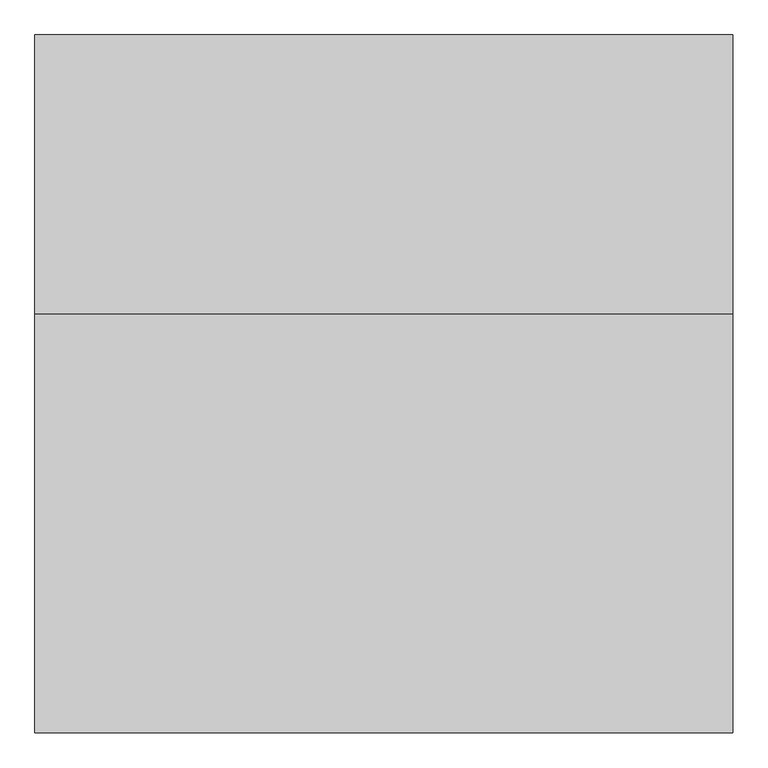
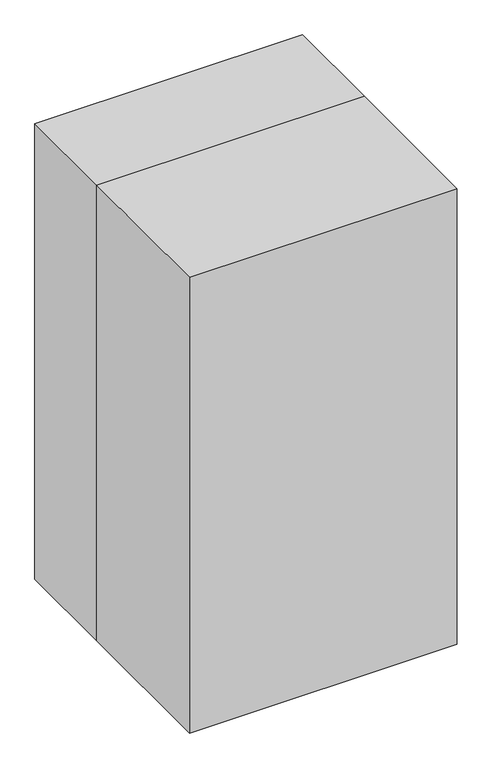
"""IFC4 building model written with IfcOpenShell, lengths in millimetres: proxy geometry, BIMHealth-Clearance_Zone_Sink-LOD2A-v1 : BIMHealth-Clearance_Zone_Sink-LOD2A-v1."""

import ifcopenshell
import ifcopenshell.guid

model = None  # the IFC model being written
_history = None  # IfcOwnerHistory: only IFC2X3 demands one
_inside = {}  # id of a spatial element -> (the spatial element, [elements in it])
_under = {}  # id of a project, library or spatial element -> (it, [spatial elements below it])
_declared = {}  # id of a project -> (the project, [libraries it declares])
_typed = {}  # id of a type object -> (the type object, [elements of that type])
_made_of = {}  # id of a material, layer set ... -> (it, [elements and type objects made of it])


def new_model(schema):
    """Start an empty IFC model of exactly this schema.

    Asked for "IFC4X3", IfcOpenShell would pick the latest addendum, in which some entities
    have other attributes; the version numbers below select the first issue.
    IFC2X3 requires an IfcOwnerHistory on every rooted entity: one is made here for all.
    """
    global model, _history
    if schema == "IFC4X3":
        model = ifcopenshell.file(schema_version=(4, 3, 0, 0))
    else:
        model = ifcopenshell.file(schema=schema)
    _inside.clear()
    _under.clear()
    _declared.clear()
    _typed.clear()
    _made_of.clear()
    _history = None
    if model.schema == "IFC2X3":
        org = make("IfcOrganization", Name="unknown")
        user = make(
            "IfcPersonAndOrganization",
            ThePerson=make("IfcPerson", FamilyName="unknown"),
            TheOrganization=org,
        )
        app = make(
            "IfcApplication",
            ApplicationDeveloper=org,
            Version="unknown",
            ApplicationFullName="unknown",
            ApplicationIdentifier="unknown",
        )
        _history = make(
            "IfcOwnerHistory",
            OwningUser=user,
            OwningApplication=app,
            ChangeAction="ADDED",
            CreationDate=0,
        )
    return model


def make(cls, **values):
    """One entity of the class cls with the attributes given. An attribute that is None is left unset."""
    return model.create_entity(
        cls, **{name: value for name, value in values.items() if value is not None}
    )


def rooted(cls, **values):
    """An entity with a GlobalId (a new one), such as an element, a storey or a relation."""
    return make(cls, GlobalId=ifcopenshell.guid.new(), OwnerHistory=_history, **values)


def si_unit(unit_type, name, prefix=None):
    """IfcSIUnit, for example si_unit("LENGTHUNIT", "METRE", prefix="MILLI")."""
    return make("IfcSIUnit", UnitType=unit_type, Prefix=prefix, Name=name)


def assignment(units):
    """IfcUnitAssignment: the units of a project."""
    return None if units is None else make("IfcUnitAssignment", Units=units)


def point(xyz):
    """IfcCartesianPoint."""
    return None if xyz is None else make("IfcCartesianPoint", Coordinates=xyz)


def direction(xyz):
    """IfcDirection."""
    return None if xyz is None else make("IfcDirection", DirectionRatios=xyz)


def frame(location, z_axis=None, x_axis=None):
    """IfcAxis2Placement3D, a coordinate frame: its origin and axes. An axis left out is left unset."""
    return make(
        "IfcAxis2Placement3D",
        Location=point(location),
        Axis=direction(z_axis),
        RefDirection=direction(x_axis),
    )


def origin():
    """The frame at (0, 0, 0) with its axes left unset."""
    return frame((0.0, 0.0, 0.0))


def origin_with_axes():
    """The frame at (0, 0, 0) with the z axis (0, 0, 1) and the x axis (1, 0, 0) written out."""
    return frame((0.0, 0.0, 0.0), z_axis=(0.0, 0.0, 1.0), x_axis=(1.0, 0.0, 0.0))


def place(relative_to, where):
    """IfcLocalPlacement: puts the frame where relative to a parent placement (None: the world)."""
    return make(
        "IfcLocalPlacement", PlacementRelTo=relative_to, RelativePlacement=where
    )


def context(
    kind, dimensions, precision=None, world=None, true_north=None, identifier=None
):
    """IfcGeometricRepresentationContext, for example the 3D "Model" context."""
    return make(
        "IfcGeometricRepresentationContext",
        ContextIdentifier=identifier,
        ContextType=kind,
        CoordinateSpaceDimension=dimensions,
        Precision=precision,
        WorldCoordinateSystem=world,
        TrueNorth=true_north,
    )


def project(units=None, contexts=None):
    """IfcProject with its units and contexts."""
    return rooted(
        "IfcProject",
        Name="project",
        RepresentationContexts=contexts,
        UnitsInContext=assignment(units),
    )


def spatial(cls, under=None, at=None, **own):
    """A site, building, storey or space (cls), placed at a placement, below another one or the project."""
    s = rooted(cls, ObjectPlacement=at, **own)
    if under is not None:
        _under.setdefault(under.id(), (under, []))[1].append(s)
    return s


def polyline(points):
    """IfcPolyline through the points."""
    return make("IfcPolyline", Points=[point(p) for p in points])


def outline(outer, holes=None, kind="AREA"):
    """IfcArbitraryClosedProfileDef: a profile drawn as a closed curve; with holes, ...WithVoids."""
    if holes is None:
        return make("IfcArbitraryClosedProfileDef", ProfileType=kind, OuterCurve=outer)
    return make(
        "IfcArbitraryProfileDefWithVoids",
        ProfileType=kind,
        OuterCurve=outer,
        InnerCurves=holes,
    )


def extrude(swept, where, along, depth):
    """IfcExtrudedAreaSolid: the profile swept, set in the frame where, extruded along a direction by depth."""
    return make(
        "IfcExtrudedAreaSolid",
        SweptArea=swept,
        Position=where,
        ExtrudedDirection=direction(along),
        Depth=depth,
    )


def shape(context_of_items, identifier, shape_type, items):
    """IfcShapeRepresentation: the items that make up one representation, for example the "Body"."""
    return make(
        "IfcShapeRepresentation",
        ContextOfItems=context_of_items,
        RepresentationIdentifier=identifier,
        RepresentationType=shape_type,
        Items=items,
    )


def source(mapping_origin, context_of_items, identifier, shape_type, items):
    """IfcRepresentationMap: a shape defined once, which mapped items show again and again."""
    return make(
        "IfcRepresentationMap",
        MappingOrigin=mapping_origin,
        MappedRepresentation=shape(context_of_items, identifier, shape_type, items),
    )


def transform(
    local_origin,
    x_axis=None,
    y_axis=None,
    z_axis=None,
    scale=None,
    scale2=None,
    scale3=None,
    uniform=True,
):
    """IfcCartesianTransformationOperator3D, or its non-uniform kind. x_axis, y_axis, z_axis: its Axis1, 2, 3."""
    if uniform:
        return make(
            "IfcCartesianTransformationOperator3D",
            Axis1=direction(x_axis),
            Axis2=direction(y_axis),
            LocalOrigin=point(local_origin),
            Scale=scale,
            Axis3=direction(z_axis),
        )
    return make(
        "IfcCartesianTransformationOperator3DnonUniform",
        Axis1=direction(x_axis),
        Axis2=direction(y_axis),
        LocalOrigin=point(local_origin),
        Scale=scale,
        Axis3=direction(z_axis),
        Scale2=scale2,
        Scale3=scale3,
    )


def mapped(mapping_source, mapping_target):
    """IfcMappedItem: shows the shape of a source again, moved by a transform."""
    return make(
        "IfcMappedItem", MappingSource=mapping_source, MappingTarget=mapping_target
    )


def made_of(thing, what):
    """Note that an element or type object is made of a material, layer set ...; save() writes the relation."""
    if what is not None:
        _made_of.setdefault(what.id(), (what, []))[1].append(thing)
    return thing


def element(
    cls,
    number,
    at=None,
    inside=None,
    cuts=None,
    type_object=None,
    material=None,
    context=None,
    identifier="Body",
    shape_type=None,
    held_by="IfcProductDefinitionShape",
    body=None,
    shapes=None,
    **own,
):
    """One element of the class cls, such as IfcWall. Its Tag is "e" and its number.

    at: its placement. inside: the storey or other place that contains it. cuts: it is an
    opening in that element (IfcRelVoidsElement). A single representation is given by context,
    identifier, shape_type and body (its items); several are given by shapes. held_by: the class
    of the entity that holds the representations. save() writes the other relations.
    """
    e = rooted(cls, Tag="e%d" % number, ObjectPlacement=at, **own)
    if body is not None:
        shapes = [shape(context, identifier, shape_type, body)]
    if shapes is not None:
        e.Representation = make(held_by, Representations=shapes)
    if inside is not None:
        _inside.setdefault(inside.id(), (inside, []))[1].append(e)
    if cuts is not None:
        rooted(
            "IfcRelVoidsElement", RelatingBuildingElement=cuts, RelatedOpeningElement=e
        )
    if type_object is not None:
        _typed.setdefault(type_object.id(), (type_object, []))[1].append(e)
    return made_of(e, material)


def aggregate(whole, parts):
    """IfcRelAggregates: a whole, such as a stair, and the parts it consists of."""
    return rooted("IfcRelAggregates", RelatingObject=whole, RelatedObjects=parts)


def save(model, path):
    """Write the relations noted so far, then the file.

    IfcRelAggregates (storeys below a building ...), IfcRelContainedInSpatialStructure (elements
    in a storey), IfcRelDefinesByType, IfcRelAssociatesMaterial and IfcRelDeclares: one each for
    every whole, place, type object, material and project.
    """
    for whole, parts in _under.values():
        aggregate(whole, parts)
    for where, things in _inside.values():
        rooted(
            "IfcRelContainedInSpatialStructure",
            RelatedElements=things,
            RelatingStructure=where,
        )
    for kind, things in _typed.values():
        rooted("IfcRelDefinesByType", RelatedObjects=things, RelatingType=kind)
    for what, things in _made_of.values():
        rooted("IfcRelAssociatesMaterial", RelatedObjects=things, RelatingMaterial=what)
    for by, libraries in _declared.values():
        rooted("IfcRelDeclares", RelatingContext=by, RelatedDefinitions=libraries)
    model.write(path)


def generic_models_544275ef(model_context):
    return source(origin(), model_context, "Body", "SweptSolid", [
        extrude(outline(polyline([(1000.0, -400.0), (1000.0, -1000.0), (0.0, -1000.0), (0.0, -400.0), (1000.0, -400.0)])), origin_with_axes(), (0.0, 0.0, 1.0), 1800.0),
        extrude(outline(polyline([(1000.0, 0.0), (1000.0, -400.0), (0.0, -400.0), (0.0, 0.0), (1000.0, 0.0)])), origin_with_axes(), (0.0, 0.0, 1.0), 1800.0),
    ])


if __name__ == "__main__":
    model = new_model("IFC4")
    model_context = context("Model", 3, world=origin())
    ifc_project = project(units=[si_unit("LENGTHUNIT", "METRE", prefix="MILLI")], contexts=[model_context])
    site = spatial("IfcSite", under=ifc_project)
    building = spatial("IfcBuilding", under=site)
    placement = place(None, origin())
    generic_models_shape = generic_models_544275ef(model_context)
    element("IfcBuildingElementProxy", 1, Name="BIMHealth-Clearance_Zone_Sink-LOD2A-v1 : BIMHealth-Clearance_Zone_Sink-LOD2A-v1", ObjectType="BIMHealth-Clearance_Zone_Sink-LOD2A-v1 : BIMHealth-Clearance_Zone_Sink-LOD2A-v1", at=placement, inside=building, context=model_context, shape_type="MappedRepresentation", body=[
        mapped(generic_models_shape, transform((0.0, 0.0, 0.0), x_axis=(1.0, 0.0, 0.0), y_axis=(0.0, 1.0, 0.0), z_axis=(0.0, 0.0, 1.0))),
    ])
    save(model, "model.ifc")
